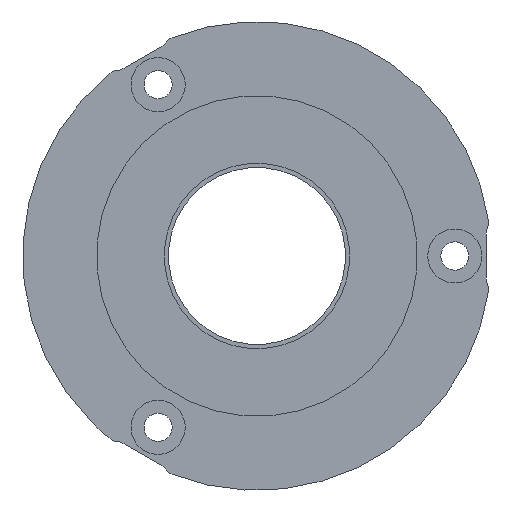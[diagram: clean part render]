
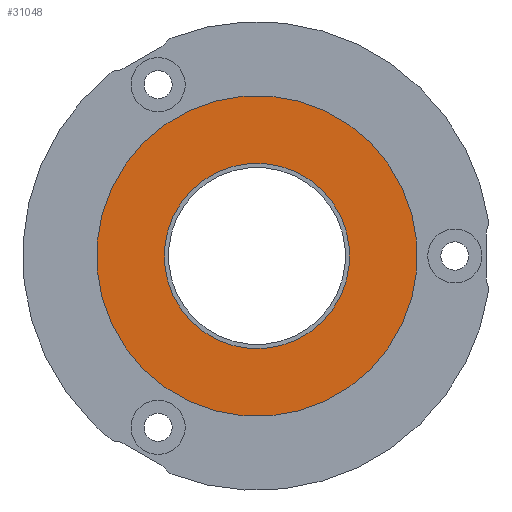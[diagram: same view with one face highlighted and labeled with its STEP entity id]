
A CAD part, front view. The second image highlights one B-rep face of the part: STEP entity #31048.
In plain terms, the highlighted planar face has unit normal (0, -1, 0).
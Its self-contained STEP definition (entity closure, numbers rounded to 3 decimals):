
#718 = DIRECTION ( 'NONE',  ( 0., -1., 0. ) ) ;
#997 = ORIENTED_EDGE ( 'NONE', *, *, #13984, .F. ) ;
#2409 = CARTESIAN_POINT ( 'NONE',  ( -10.889, -1.601, -10.889 ) ) ;
#2534 = VERTEX_POINT ( 'NONE', #17310 ) ;
#4714 = CIRCLE ( 'NONE', #51325, 8.9 ) ;
#7080 = CIRCLE ( 'NONE', #15982, 15.4 ) ;
#7681 = ORIENTED_EDGE ( 'NONE', *, *, #41518, .T. ) ;
#9472 = VERTEX_POINT ( 'NONE', #33190 ) ;
#10249 = EDGE_LOOP ( 'NONE', ( #997, #54940 ) ) ;
#11480 = CIRCLE ( 'NONE', #20372, 15.4 ) ;
#13209 = DIRECTION ( 'NONE',  ( 0.707, 0., 0.707 ) ) ;
#13984 = EDGE_CURVE ( 'NONE', #9472, #16413, #4714, .T. ) ;
#15394 = CARTESIAN_POINT ( 'NONE',  ( 0., -1.601, 0. ) ) ;
#15641 = EDGE_CURVE ( 'NONE', #16413, #9472, #16253, .T. ) ;
#15982 = AXIS2_PLACEMENT_3D ( 'NONE', #37672, #36448, #42353 ) ;
#16253 = CIRCLE ( 'NONE', #17762, 8.9 ) ;
#16413 = VERTEX_POINT ( 'NONE', #46150 ) ;
#17310 = CARTESIAN_POINT ( 'NONE',  ( 10.889, -1.601, 10.889 ) ) ;
#17762 = AXIS2_PLACEMENT_3D ( 'NONE', #15394, #48011, #19704 ) ;
#18895 = EDGE_CURVE ( 'NONE', #59860, #2534, #11480, .T. ) ;
#19586 = DIRECTION ( 'NONE',  ( 0.707, 0., 0.707 ) ) ;
#19704 = DIRECTION ( 'NONE',  ( 0.707, 0., 0.707 ) ) ;
#20293 = ORIENTED_EDGE ( 'NONE', *, *, #18895, .T. ) ;
#20372 = AXIS2_PLACEMENT_3D ( 'NONE', #22343, #60298, #50996 ) ;
#22343 = CARTESIAN_POINT ( 'NONE',  ( 0., -1.601, 0. ) ) ;
#27472 = FACE_BOUND ( 'NONE', #10249, .T. ) ;
#31048 = ADVANCED_FACE ( 'NONE', ( #50817, #27472 ), #41525, .T. ) ;
#33190 = CARTESIAN_POINT ( 'NONE',  ( -6.293, -1.601, -6.293 ) ) ;
#36448 = DIRECTION ( 'NONE',  ( 0., -1., 0. ) ) ;
#37672 = CARTESIAN_POINT ( 'NONE',  ( 0., -1.601, 0. ) ) ;
#41518 = EDGE_CURVE ( 'NONE', #2534, #59860, #7080, .T. ) ;
#41525 = PLANE ( 'NONE',  #42107 ) ;
#41749 = EDGE_LOOP ( 'NONE', ( #20293, #7681 ) ) ;
#42107 = AXIS2_PLACEMENT_3D ( 'NONE', #55757, #46480, #13209 ) ;
#42353 = DIRECTION ( 'NONE',  ( 0.707, 0., 0.707 ) ) ;
#46150 = CARTESIAN_POINT ( 'NONE',  ( 6.293, -1.601, 6.293 ) ) ;
#46480 = DIRECTION ( 'NONE',  ( 0., -1., 0. ) ) ;
#47589 = CARTESIAN_POINT ( 'NONE',  ( 0., -1.601, 0. ) ) ;
#48011 = DIRECTION ( 'NONE',  ( 0., -1., 0. ) ) ;
#50817 = FACE_OUTER_BOUND ( 'NONE', #41749, .T. ) ;
#50996 = DIRECTION ( 'NONE',  ( 0.707, 0., 0.707 ) ) ;
#51325 = AXIS2_PLACEMENT_3D ( 'NONE', #47589, #718, #19586 ) ;
#54940 = ORIENTED_EDGE ( 'NONE', *, *, #15641, .F. ) ;
#55757 = CARTESIAN_POINT ( 'NONE',  ( 0., -1.601, 0. ) ) ;
#59860 = VERTEX_POINT ( 'NONE', #2409 ) ;
#60298 = DIRECTION ( 'NONE',  ( 0., -1., 0. ) ) ;
